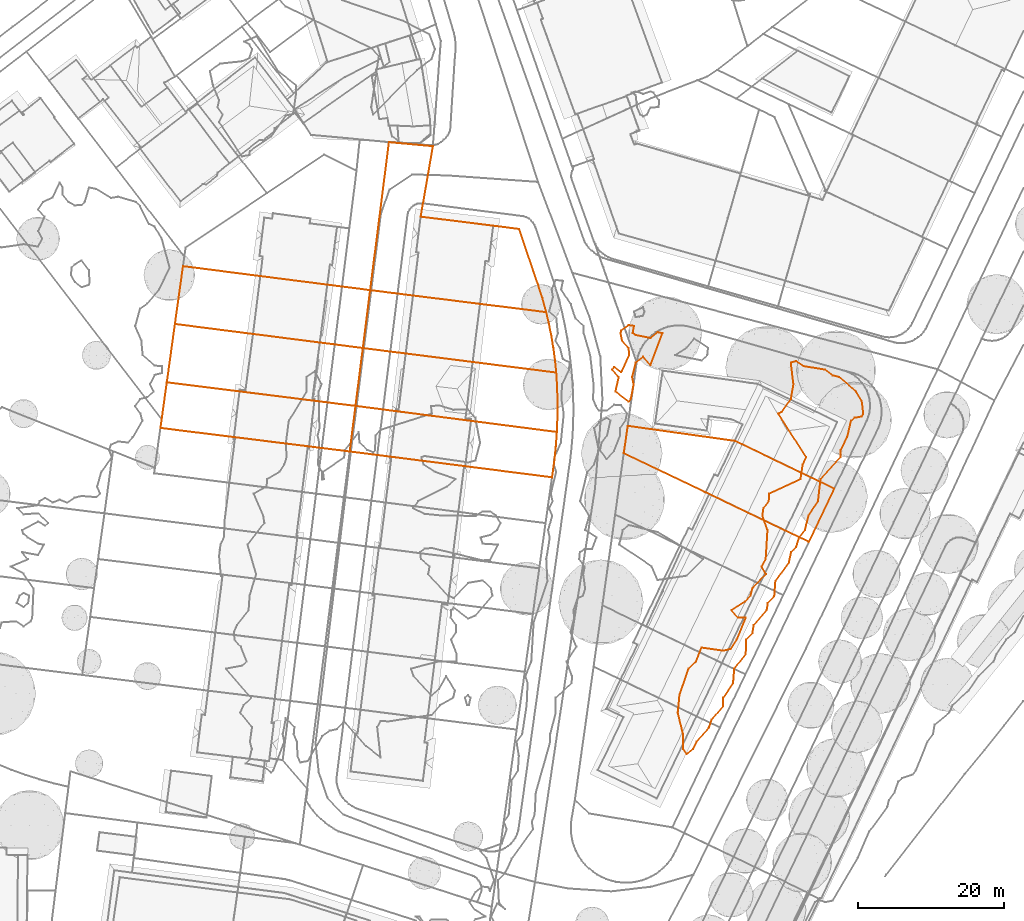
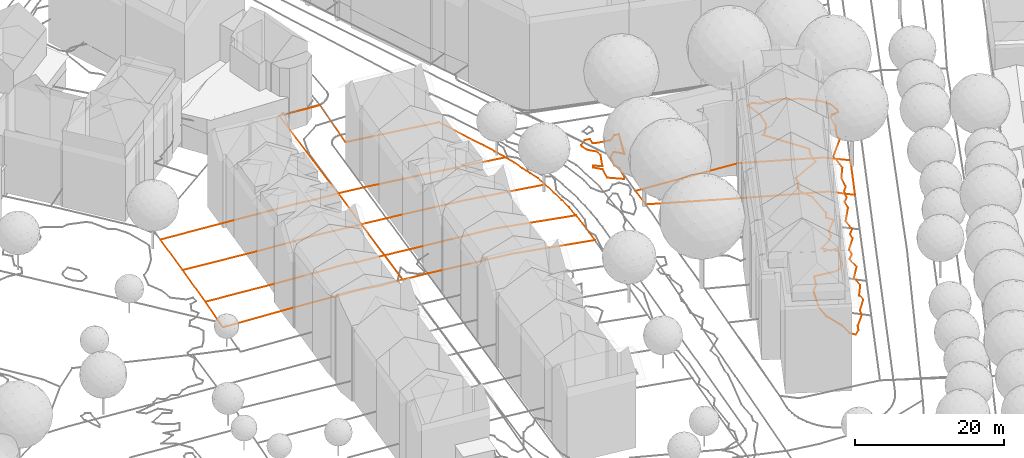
# Not in any storey, part 134 of 477: 10 geographic elements.
"""IFC4 model written with IfcOpenShell, lengths in metres."""

from ifc_helpers import new_model, entity, si_unit, frame, origin_with_axes, place, context, subcontext, project, spatial, element, save


model = new_model("IFC4")

# Units and contexts
model_context = context("Model", 3, precision=1e-05, world=origin_with_axes())
body_context = subcontext(model_context, "Body", "Model", "MODEL_VIEW")
ifc_project = project(units=[si_unit("AREAUNIT", "SQUARE_METRE"), si_unit("LENGTHUNIT", "METRE")], contexts=[model_context])

# Sites
site_1_placement = place(None, origin_with_axes())
site_1 = spatial("IfcSite", under=ifc_project, at=site_1_placement, Name="Topoexport Site")
site_2_placement = place(site_1_placement, origin_with_axes())
site_2 = spatial("IfcSite", under=site_1, at=site_2_placement, Name="TPX_CADASTRES")

# Geographic elements
geographic_element_1_placement = place(site_2_placement, frame((458.2437320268, 100.0797160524, 502.7833330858), z_axis=(0.0, 0.0, 1.0), x_axis=(1.0, 0.0, 0.0)))
element("IfcGeographicElement", 1, at=geographic_element_1_placement, inside=site_2, Name="Cadastre 200", PredefinedType="NOTDEFINED", context=body_context, shape_type="GeometricCurveSet", body=[
    entity("IfcGeometricCurveSet", [entity("IfcIndexedPolyCurve", entity("IfcCartesianPointList3D", [[0.0, 0.0, 0.0], [2.5800000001, 20.301, -0.5211202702], [8.6090000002, 19.7410000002, -0.5354105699], [6.9300000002, 10.0800000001, -0.1528684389], [20.4580000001, 8.3910000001, -0.6199449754], [22.3679999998, 2.6699999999, -0.7099286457], [23.0279999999, 0.794, -0.7163848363], [23.6239999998, -1.1040000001, -0.7372350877], [24.1579999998, -3.02, -0.7358762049], [15.0290000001, -1.879, -0.3789799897], [5.8789999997, -0.74, -0.1002166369], [3.77, -0.47, -0.0326743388], [0.0, 0.0, 0.0]]))]),
])
geographic_element_2_placement = place(site_2_placement, frame((493.0387320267, 77.7097160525, 502.354902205), z_axis=(0.0, 0.0, 1.0), x_axis=(1.0, 0.0, 0.0)))
element("IfcGeographicElement", 2, at=geographic_element_2_placement, inside=site_2, Name="Cadastre 207", PredefinedType="NOTDEFINED", context=body_context, shape_type="GeometricCurveSet", body=[
    entity("IfcGeometricCurveSet", [entity("IfcIndexedPolyCurve", entity("IfcCartesianPointList3D", [[0.0, 0.0, 0.0], [0.531, 3.76, -0.2524258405], [15.2390000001, 1.6909999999, 0.3860078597], [25.6320000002, -3.304, 0.6899825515], [28.8680000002, -4.8590000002, 0.0461032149], [25.3769999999, -12.149, 0.0189206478], [22.1400000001, -10.5990000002, 0.7640481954], [11.048, -5.2890000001, 0.3063890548], [0.0, 0.0, 0.0]]))]),
])
geographic_element_3_placement = place(site_2_placement, frame((455.4417320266, 77.9497160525, 503.0316191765), z_axis=(0.0, 0.0, 1.0), x_axis=(1.0, 0.0, 0.0)))
element("IfcGeographicElement", 3, at=geographic_element_3_placement, inside=site_2, Name="Cadastre 209", PredefinedType="NOTDEFINED", context=body_context, shape_type="GeometricCurveSet", body=[
    entity("IfcGeometricCurveSet", [entity("IfcIndexedPolyCurve", entity("IfcCartesianPointList3D", [[0.0, 0.0, 0.0], [0.7910000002, 6.25, -0.0698413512], [4.5580000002, 5.7619999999, -0.0775266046], [6.412, 5.5219999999, -0.0621302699], [16.6370000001, 4.1969999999, -0.0062787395], [28.4180000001, 2.6699999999, -1.0231640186], [28.267, 0.5929999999, -1.047767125], [28.0430000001, -1.4780000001, -1.0954798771], [27.7480000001, -3.54, -1.0754547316], [15.8160000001, -2.0180000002, -0.0723969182], [5.6140000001, -0.716, 0.012964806], [3.7690000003, -0.4810000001, 0.0280740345], [0.0, 0.0, 0.0]]))]),
])
geographic_element_4_placement = place(site_2_placement, frame((456.2327320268, 84.1997160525, 502.9617778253), z_axis=(0.0, 0.0, 1.0), x_axis=(1.0, 0.0, 0.0)))
element("IfcGeographicElement", 4, at=geographic_element_4_placement, inside=site_2, Name="Cadastre 210", PredefinedType="NOTDEFINED", context=body_context, shape_type="GeometricCurveSet", body=[
    entity("IfcGeometricCurveSet", [entity("IfcIndexedPolyCurve", entity("IfcCartesianPointList3D", [[0.0, 0.0, 0.0], [1.0099999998, 7.9399999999, -0.0829378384], [4.7599999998, 7.46, -0.093228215], [6.8999999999, 7.1899999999, -0.1076761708], [16.02, 6.034, -0.2281195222], [27.548, 4.5699999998, -0.8212400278], [27.6680000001, 2.5349999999, -0.9317075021], [27.7209999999, 0.496, -0.9237458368], [27.7069999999, -1.5430000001, -0.9004112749], [27.6269999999, -3.5800000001, -0.9533226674], [15.8459999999, -2.0530000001, 0.0635626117], [5.6209999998, -0.7280000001, 0.0077110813], [3.767, -0.4880000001, -0.0076852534], [0.0, 0.0, 0.0]]))]),
])
geographic_element_5_placement = place(site_2_placement, frame((431.4657320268, 95.4397160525, 502.4025618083), z_axis=(0.0, 0.0, 1.0), x_axis=(1.0, 0.0, 0.0)))
element("IfcGeographicElement", 5, at=geographic_element_5_placement, inside=site_2, Name="Cadastre 212", PredefinedType="NOTDEFINED", context=body_context, shape_type="GeometricCurveSet", body=[
    entity("IfcGeometricCurveSet", [entity("IfcIndexedPolyCurve", entity("IfcCartesianPointList3D", [[0.0, 0.0, 0.0], [1.1099999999, 7.9299999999, -0.2021143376], [11.7579999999, 6.5649999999, 0.0736992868], [20.8659999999, 5.398, 0.325451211], [23.0079999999, 5.1229999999, 0.2560918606], [26.7779999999, 4.6399999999, 0.3807712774], [25.7769999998, -3.3, 0.4762781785], [21.9989999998, -2.8160000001, 0.4356177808], [19.8369999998, -2.5390000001, 0.4831614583], [10.7220000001, -1.3730000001, 0.1465832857], [0.0, 0.0, 0.0]]))]),
])
geographic_element_6_placement = place(site_2_placement, frame((429.4747320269, 81.1797160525, 502.3623866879), z_axis=(0.0, 0.0, 1.0), x_axis=(1.0, 0.0, 0.0)))
element("IfcGeographicElement", 6, at=geographic_element_6_placement, inside=site_2, Name="Cadastre 213", PredefinedType="NOTDEFINED", context=body_context, shape_type="GeometricCurveSet", body=[
    entity("IfcGeometricCurveSet", [entity("IfcIndexedPolyCurve", entity("IfcCartesianPointList3D", [[0.0, 0.0, 0.0], [0.1799999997, 1.23, -0.0210623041], [0.8799999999, 6.26, 0.0918797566], [10.8809999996, 5.0079999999, 0.2835336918], [21.0919999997, 3.7290000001, 0.6649513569], [22.9869999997, 3.4919999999, 0.5513137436], [26.7579999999, 3.02, 0.5993911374], [25.9669999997, -3.23, 0.6692324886], [22.1969999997, -2.7609999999, 0.5796029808], [20.3119999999, -2.5260000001, 0.7203817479], [10.1009999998, -1.2560000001, 0.4460826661], [0.0, 0.0, 0.0]]))]),
])
geographic_element_7_placement = place(site_2_placement, frame((430.3547320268, 87.4397160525, 502.4542664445), z_axis=(0.0, 0.0, 1.0), x_axis=(1.0, 0.0, 0.0)))
element("IfcGeographicElement", 7, at=geographic_element_7_placement, inside=site_2, Name="Cadastre 214", PredefinedType="NOTDEFINED", context=body_context, shape_type="GeometricCurveSet", body=[
    entity("IfcGeometricCurveSet", [entity("IfcIndexedPolyCurve", entity("IfcCartesianPointList3D", [[0.0, 0.0, 0.0], [1.111, 8.0, -0.0517046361], [11.8330000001, 6.6269999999, 0.0948786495], [20.9479999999, 5.4609999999, 0.4314568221], [23.1099999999, 5.1839999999, 0.3839131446], [26.8879999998, 4.7, 0.4245735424], [25.878, -3.24, 0.5075113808], [22.1069999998, -2.7680000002, 0.4594339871], [20.2119999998, -2.531, 0.5730716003], [10.0009999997, -1.2520000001, 0.1916539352], [0.0, 0.0, 0.0]]))]),
])
geographic_element_8_placement = place(site_2_placement, frame((457.2427320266, 92.1397160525, 502.8788399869), z_axis=(0.0, 0.0, 1.0), x_axis=(1.0, 0.0, 0.0)))
element("IfcGeographicElement", 8, at=geographic_element_8_placement, inside=site_2, Name="Cadastre 218", PredefinedType="NOTDEFINED", context=body_context, shape_type="GeometricCurveSet", body=[
    entity("IfcGeometricCurveSet", [entity("IfcIndexedPolyCurve", entity("IfcCartesianPointList3D", [[0.0, 0.0, 0.0], [1.0010000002, 7.9399999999, -0.0955069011], [4.7710000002, 7.47, -0.1281812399], [6.8799999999, 7.2, -0.195723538], [16.0300000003, 6.061, -0.4744868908], [25.159, 4.9199999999, -0.831383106], [25.5419999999, 3.2819999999, -0.7994354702], [25.8710000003, 1.632, -0.8653346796], [26.1469999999, -0.0279999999, -0.7723929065], [26.3700000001, -1.696, -0.6705331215], [26.5380000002, -3.3700000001, -0.7383021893], [15.0100000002, -1.906, -0.1451816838], [5.8900000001, -0.75, -0.0247383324], [3.75, -0.48, -0.0102903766], [0.0, 0.0, 0.0]]))]),
])

# Site
site_3_placement = place(site_1_placement, origin_with_axes())
site_3 = spatial("IfcSite", under=site_1, at=site_3_placement, Name="TPX_CONTOUR_LINES")

# Geographic elements
geographic_element_9_placement = place(site_3_placement, frame((491.4617672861, 89.1707160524, 502.0), z_axis=(0.0, 0.0, 1.0), x_axis=(1.0, 0.0, 0.0)))
element("IfcGeographicElement", 9, at=geographic_element_9_placement, inside=site_3, Name="Contour Line 502.0 m", PredefinedType="NOTDEFINED", context=body_context, shape_type="GeometricCurveSet", body=[
    entity("IfcGeometricCurveSet", [entity("IfcIndexedPolyCurve", entity("IfcCartesianPointList3D", [[2.2159647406, -4.4002709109, 0.0], [2.5347349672, -4.0, 0.0], [2.9308241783, -2.0, 0.0], [2.7196759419, -1.0, 0.0], [3.2159647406, 0.9694323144, 0.0], [4.2159647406, 1.7775735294, 0.0], [5.2159647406, 0.6614950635, 0.0], [6.8678418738, 5.0, 0.0], [6.2159647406, 5.1387073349, 0.0], [5.2159647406, 4.3467625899, 0.0], [3.2159647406, 4.7564102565, 0.0], [2.7768891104, 5.0, 0.0], [2.9659647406, 6.0, 0.0], [2.2159647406, 6.1174033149, 0.0], [1.2159647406, 5.3923541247, 0.0], [1.1336688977, 5.0, 0.0], [1.3325828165, 4.0, 0.0], [2.2440297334, 3.0, 0.0], [2.2969960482, 2.0, 0.0], [1.2159647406, -0.3538083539, 0.0], [0.2159647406, 0.3801724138, 0.0], [0.0, 0.0, 0.0], [0.8705937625, -1.0, 0.0], [0.4315305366, -3.0, 0.0], [2.2159647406, -4.4002709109, 0.0]]))]),
])
geographic_element_10_placement = place(site_3_placement, frame((500.4445350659, 42.1707160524, 503.0), z_axis=(0.0, 0.0, 1.0), x_axis=(1.0, 0.0, 0.0)))
element("IfcGeographicElement", 10, at=geographic_element_10_placement, inside=site_3, Name="Contour Line 503.0 m", PredefinedType="NOTDEFINED", context=body_context, shape_type="GeometricCurveSet", body=[
    entity("IfcGeometricCurveSet", [entity("IfcIndexedPolyCurve", entity("IfcCartesianPointList3D", [[2.0943491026, -5.0, 0.0], [1.2331969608, -5.7170971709, 0.0], [0.7149747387, -5.0, 0.0], [0.7135210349, -3.0, 0.0], [0.0, 0.0, 0.0], [0.2331969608, 2.4357298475, 0.0], [1.4650384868, 6.0, 0.0], [2.477412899, 7.0, 0.0], [3.2331969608, 8.8820276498, 0.0], [6.2331969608, 8.46, 0.0], [7.2331969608, 8.7148703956, 0.0], [8.0856856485, 10.0, 0.0], [9.3235685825, 13.0, 0.0], [8.2331969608, 13.0072239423, 0.0], [7.3432802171, 14.0, 0.0], [9.2331969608, 15.2280821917, 0.0], [9.9605283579, 16.0, 0.0], [10.2331969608, 17.0445975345, 0.0], [12.0824330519, 19.0, 0.0], [11.4952235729, 20.0, 0.0], [12.054040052, 21.0, 0.0], [12.3018244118, 25.0, 0.0], [11.6024780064, 27.0, 0.0], [11.744003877, 28.0, 0.0], [12.4747924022, 29.0, 0.0], [12.5327252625, 30.0, 0.0], [16.8264612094, 32.0, 0.0], [17.1269793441, 34.0, 0.0], [17.6074173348, 35.0, 0.0], [13.787625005, 41.0, 0.0], [14.2331969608, 41.1851993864, 0.0], [15.5053652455, 43.0, 0.0], [15.8604971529, 45.0, 0.0], [15.5038016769, 48.0, 0.0], [16.2331969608, 48.1763875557, 0.0], [17.2331969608, 47.4807649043, 0.0], [20.2331969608, 47.0002241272, 0.0], [21.2331969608, 46.2294562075, 0.0], [22.1212836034, 46.0, 0.0], [24.4545084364, 44.0, 0.0], [25.2331969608, 42.7132653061, 0.0], [25.437392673, 41.0, 0.0], [25.2331969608, 40.5802919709, 0.0], [24.2331969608, 40.4181444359, 0.0], [23.7591293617, 40.0, 0.0], [23.2331969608, 37.7976391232, 0.0], [22.3573322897, 36.0, 0.0], [22.2979970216, 35.0, 0.0], [19.5767131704, 32.0, 0.0], [19.2312198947, 29.0, 0.0], [17.9218823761, 27.0, 0.0], [17.4306277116, 25.0, 0.0], [16.6235669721, 24.0, 0.0], [16.2331969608, 22.6625357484, 0.0], [15.533532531, 22.0, 0.0], [15.2331969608, 20.55568, 0.0], [13.3818549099, 18.0, 0.0], [13.2331969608, 15.9528907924, 0.0], [12.3467427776, 15.0, 0.0], [12.1857805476, 14.0, 0.0], [10.4229566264, 12.0, 0.0], [10.2331969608, 10.870733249, 0.0], [9.3757428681, 10.0, 0.0], [9.3200916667, 8.0, 0.0], [7.7426951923, 6.0, 0.0], [7.5780750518, 4.0, 0.0], [6.2354374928, 2.0, 0.0], [6.2331969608, 0.874074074, 0.0], [4.6353825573, -1.0, 0.0], [4.2331969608, -2.1700321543, 0.0], [2.574935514, -4.0, 0.0], [2.0943491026, -5.0, 0.0]]))]),
])

save(model, "model.ifc")
